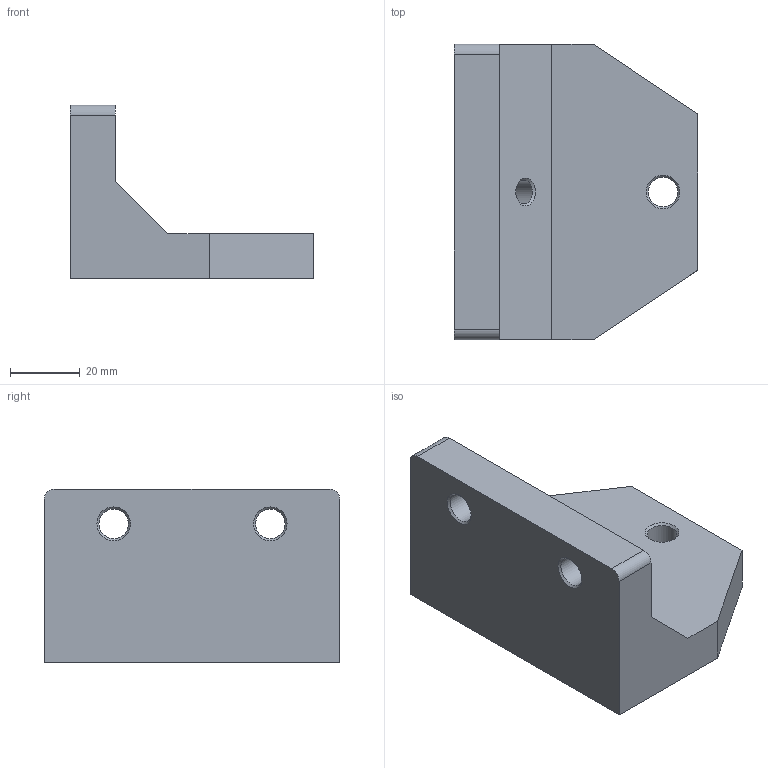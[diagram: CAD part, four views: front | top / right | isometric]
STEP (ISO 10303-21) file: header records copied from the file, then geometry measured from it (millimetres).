
FILE_DESCRIPTION(/* description */ (''),/* implementation_level */ '2;1');
FILE_NAME(/* name */ 'TRAYLOADER.88.stp',/* time_stamp */ '2025-05-12T17:09:01+02:00',/* author */ (''),/* organization */ (''),/* preprocessor_version */ 'ST-DEVELOPER v19.4',/* originating_system */ 'SIEMENS PLM Software NX2306.5001',/* authorisation */ '');
FILE_SCHEMA (('AP203_CONFIGURATION_CONTROLLED_3D_DESIGN_OF_MECHANICAL_PARTS_AND_ASSEMBLIES_MIM_LF { 1 0 10303 403 2 1 2}'));
Length unit declared in the file: millimetre
Products named in the file (1): TRAYLOADER.88_objects
Bounding box: 70 x 85 x 50 mm (x, y, z)
Volume: 116876.3 mm3; surface area: 22172.8 mm2
Topology: 1 solids, 1 shells, 25 faces, 68 edges, 45 vertices
Faces by surface type: plane 11, cone 8, cylinder 6
Full cylindrical faces by diameter (mm): 6.8 x1, 8.5 x3
Entity records: 763 total; most frequent: DIRECTION 119, CARTESIAN_POINT 112, ORIENTED_EDGE 96, EDGE_CURVE 48, AXIS2_PLACEMENT_3D 45, EDGE_LOOP 43, VERTEX_POINT 38, FACE_BOUND 36
